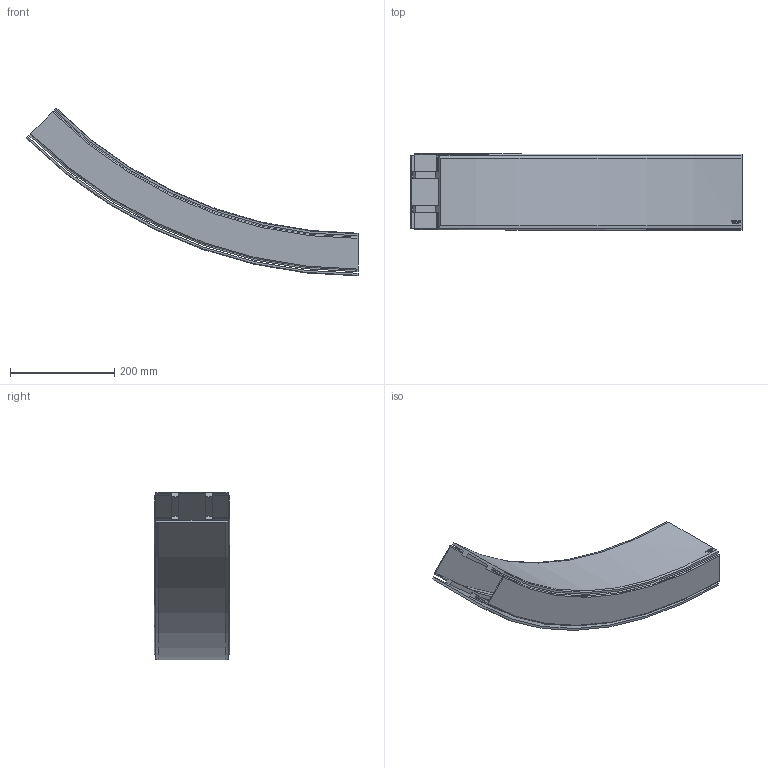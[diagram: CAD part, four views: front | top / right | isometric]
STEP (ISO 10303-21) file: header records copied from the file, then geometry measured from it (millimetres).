
FILE_DESCRIPTION(/* description */ ('VERTIKALKURVA S540 R860'),/* implementation_level */ '2;1');
FILE_NAME(/* name */ '540-5695+140-2000-UPP-01.stp',/* time_stamp */ '2022-09-21T11:18:22+02:00',/* author */ ('Mathias.Dore'),/* organization */ ('CARRYLINE'),/* preprocessor_version */ 'ST-DEVELOPER v19.2',/* originating_system */ 'Autodesk Inventor 2023',/* authorisation */ '');
FILE_SCHEMA (('AUTOMOTIVE_DESIGN { 1 0 10303 214 3 1 1 }'));
Length unit declared in the file: millimetre
Products named in the file (1): 540-5695+140-2000-UPP-01
Bounding box: 638.16 x 146 x 322.32 mm (x, y, z)
Volume: 1551481.8 mm3; surface area: 808356.3 mm2
Topology: 2 solids, 2 shells, 87 faces, 234 edges, 156 vertices
Faces by surface type: plane 40, cylinder 25, bspline 14, cone 4, torus 4
Entity records: 7369 total; most frequent: CARTESIAN_POINT 5170, ORIENTED_EDGE 468, DIRECTION 408, EDGE_CURVE 234, VERTEX_POINT 156, AXIS2_PLACEMENT_3D 141, LINE 126, VECTOR 126
